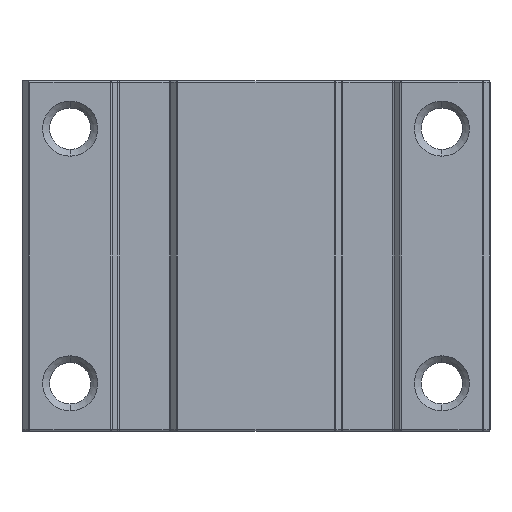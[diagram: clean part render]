
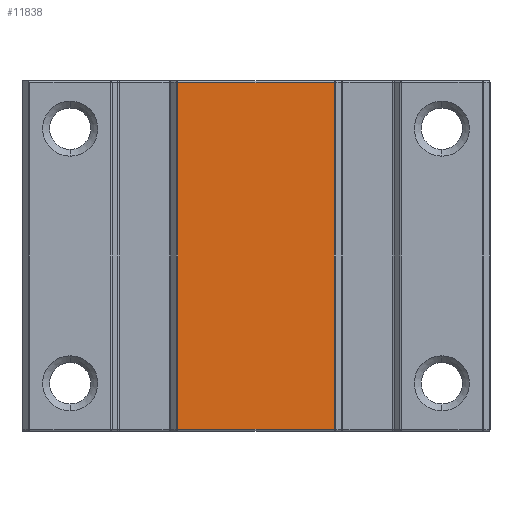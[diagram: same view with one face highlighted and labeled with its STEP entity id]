
A CAD part, front view. The second image highlights one B-rep face of the part: STEP entity #11838.
In plain terms, the highlighted planar face has unit normal (0, -1, 0).
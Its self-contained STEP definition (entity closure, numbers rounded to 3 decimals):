
#157 = VERTEX_POINT ( 'NONE', #1753 ) ;
#328 = VECTOR ( 'NONE', #452, 1000. ) ;
#452 = DIRECTION ( 'NONE',  ( 0., 0., -1. ) ) ;
#832 = VECTOR ( 'NONE', #7341, 1000. ) ;
#864 = CARTESIAN_POINT ( 'NONE',  ( 15.009, -11.977, -14.476 ) ) ;
#1081 = CARTESIAN_POINT ( 'NONE',  ( 14.885, -11.977, 35.924 ) ) ;
#1607 = VERTEX_POINT ( 'NONE', #6187 ) ;
#1753 = CARTESIAN_POINT ( 'NONE',  ( 14.885, -11.977, -14.476 ) ) ;
#2190 = ORIENTED_EDGE ( 'NONE', *, *, #7340, .T. ) ;
#2426 = LINE ( 'NONE', #864, #15496 ) ;
#3110 = EDGE_CURVE ( 'NONE', #157, #10623, #5579, .T. ) ;
#3332 = AXIS2_PLACEMENT_3D ( 'NONE', #9931, #18792, #6779 ) ;
#4719 = EDGE_LOOP ( 'NONE', ( #8865, #16835, #2190, #8142 ) ) ;
#5579 = LINE ( 'NONE', #16111, #832 ) ;
#5671 = DIRECTION ( 'NONE',  ( -1., 0., 0. ) ) ;
#6187 = CARTESIAN_POINT ( 'NONE',  ( -7.866, -11.977, 35.924 ) ) ;
#6779 = DIRECTION ( 'NONE',  ( 0., 0., 1. ) ) ;
#7340 = EDGE_CURVE ( 'NONE', #15539, #157, #2426, .T. ) ;
#7341 = DIRECTION ( 'NONE',  ( 0., 0., 1. ) ) ;
#8142 = ORIENTED_EDGE ( 'NONE', *, *, #3110, .T. ) ;
#8865 = ORIENTED_EDGE ( 'NONE', *, *, #19152, .T. ) ;
#9793 = CARTESIAN_POINT ( 'NONE',  ( -7.866, -11.977, -14.476 ) ) ;
#9931 = CARTESIAN_POINT ( 'NONE',  ( -7.991, -11.977, 36.224 ) ) ;
#10174 = EDGE_CURVE ( 'NONE', #1607, #15539, #15535, .T. ) ;
#10623 = VERTEX_POINT ( 'NONE', #1081 ) ;
#11543 = DIRECTION ( 'NONE',  ( 1., 0., 0. ) ) ;
#11838 = ADVANCED_FACE ( 'NONE', ( #16023 ), #14238, .F. ) ;
#12199 = VECTOR ( 'NONE', #5671, 1000. ) ;
#14238 = PLANE ( 'NONE',  #3332 ) ;
#15496 = VECTOR ( 'NONE', #11543, 1000. ) ;
#15535 = LINE ( 'NONE', #15634, #328 ) ;
#15539 = VERTEX_POINT ( 'NONE', #9793 ) ;
#15634 = CARTESIAN_POINT ( 'NONE',  ( -7.866, -11.977, 36.224 ) ) ;
#16023 = FACE_OUTER_BOUND ( 'NONE', #4719, .T. ) ;
#16101 = LINE ( 'NONE', #17595, #12199 ) ;
#16111 = CARTESIAN_POINT ( 'NONE',  ( 14.885, -11.977, 36.224 ) ) ;
#16835 = ORIENTED_EDGE ( 'NONE', *, *, #10174, .T. ) ;
#17595 = CARTESIAN_POINT ( 'NONE',  ( -7.991, -11.977, 35.924 ) ) ;
#18792 = DIRECTION ( 'NONE',  ( 0., 1., 0. ) ) ;
#19152 = EDGE_CURVE ( 'NONE', #10623, #1607, #16101, .T. ) ;
